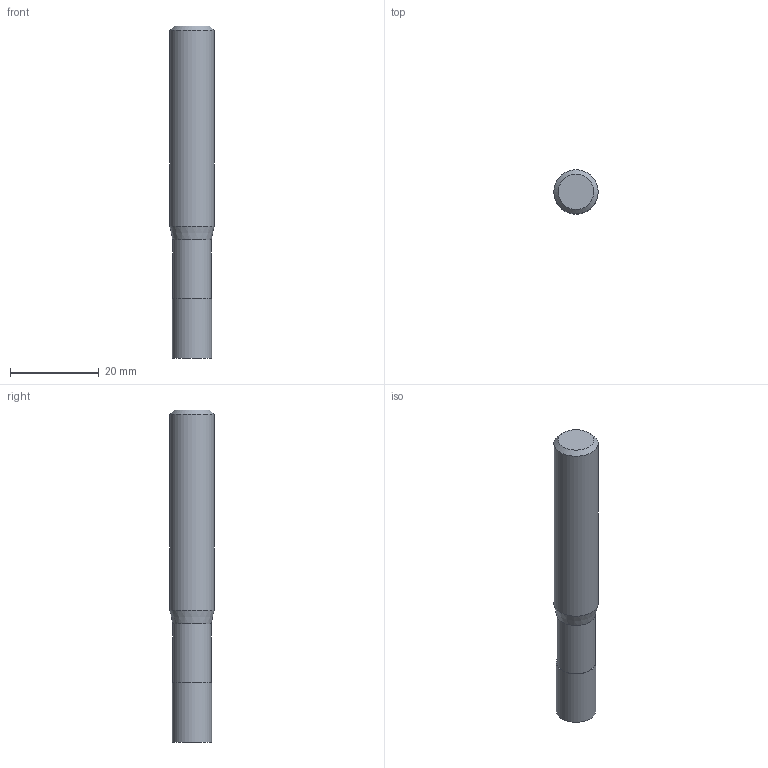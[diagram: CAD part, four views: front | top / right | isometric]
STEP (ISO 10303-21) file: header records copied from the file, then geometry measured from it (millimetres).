
FILE_DESCRIPTION((''),'2;1');
FILE_NAME('C:\Users\nsx150\AppData\Local\Temp\Mastercam 2021\EUJSUNXURU\TEMP.step','2021-04-22T10:29:38',(''),(''),'STEP Write','Mastercam 2021 ... CNC Software, Inc.','');
FILE_SCHEMA(('AUTOMOTIVE_DESIGN'));
Length unit declared in the file: millimetre
Products named in the file (1): None
Bounding box: 10 x 10 x 75 mm (x, y, z)
Volume: 5373.2 mm3; surface area: 2494 mm2
Topology: 2 solids, 2 shells, 9 faces, 12 edges, 7 vertices
Faces by surface type: plane 4, cylinder 3, cone 2
Full cylindrical faces by diameter (mm): 8.7 x1, 8.9 x1, 10 x1
Entity records: 211 total; most frequent: DIRECTION 36, CARTESIAN_POINT 25, AXIS2_PLACEMENT_3D 18, ORIENTED_EDGE 14, EDGE_LOOP 14, STYLED_ITEM 12, ADVANCED_FACE 9, FACE_BOUND 8
